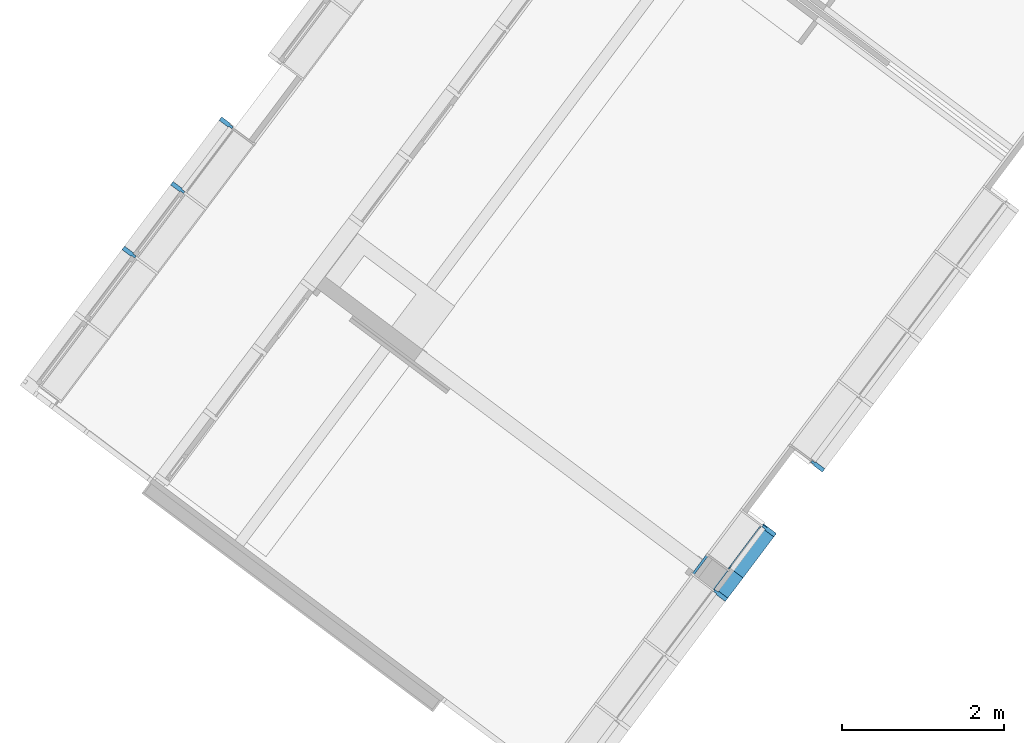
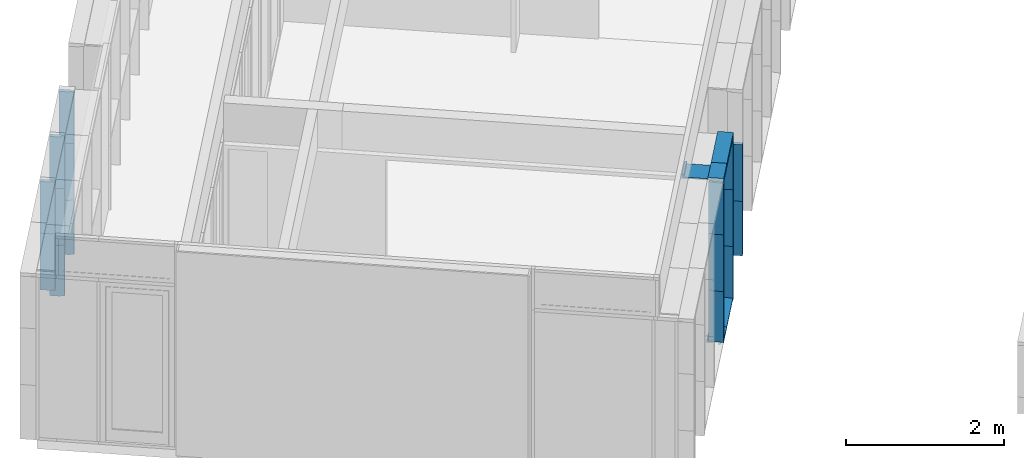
# One storey, part 93 of 243: 21 members, 3 elements without a shape of their own.
"""IFC2X3 building model written with IfcOpenShell, lengths in metres."""

from ifc_helpers import new_model, entity, si_unit, converted_unit, derived_unit, direction, frame, frame_2d, origin, place, context, subcontext, project, spatial, polyline, circle_curve, parameter, trimmed, segment, composite_curve, outline, extrude, source, transform, mapped, material, type_object, type_shapes, element, aggregate, save


model = new_model("IFC2X3")

# Units and contexts
model_context = context("Model", 3, precision=1e-05, world=origin(), true_north=direction((6.123031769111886e-17, 1.0)))
body_context = subcontext(model_context, "Body", "Model", "MODEL_VIEW")
ifc_project = project(units=[si_unit("LENGTHUNIT", "METRE"), si_unit("AREAUNIT", "SQUARE_METRE"), si_unit("VOLUMEUNIT", "CUBIC_METRE"), converted_unit("PLANEANGLEUNIT", "DEGREE", entity("IfcRatioMeasure", 0.017453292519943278), si_unit("PLANEANGLEUNIT", "RADIAN"), dimensions=[0, 0, 0, 0, 0, 0, 0]), si_unit("MASSUNIT", "GRAM", prefix="KILO"), derived_unit("MASSDENSITYUNIT", [(si_unit("MASSUNIT", "GRAM", prefix="KILO"), 1), (si_unit("LENGTHUNIT", "METRE"), -3)]), derived_unit("IONCONCENTRATIONUNIT", [(si_unit("MASSUNIT", "GRAM", prefix="KILO"), 1), (si_unit("LENGTHUNIT", "METRE"), -3)]), derived_unit("MOMENTOFINERTIAUNIT", [(si_unit("LENGTHUNIT", "METRE"), 4)]), si_unit("TIMEUNIT", "SECOND"), si_unit("FREQUENCYUNIT", "HERTZ"), si_unit("THERMODYNAMICTEMPERATUREUNIT", "DEGREE_CELSIUS"), derived_unit("THERMALTRANSMITTANCEUNIT", [(si_unit("MASSUNIT", "GRAM", prefix="KILO"), 1), (si_unit("THERMODYNAMICTEMPERATUREUNIT", "KELVIN"), -1), (si_unit("TIMEUNIT", "SECOND"), -3)]), derived_unit("THERMALCONDUCTANCEUNIT", [(si_unit("MASSUNIT", "GRAM", prefix="KILO"), 1), (si_unit("THERMODYNAMICTEMPERATUREUNIT", "KELVIN"), -1), (si_unit("TIMEUNIT", "SECOND"), -3), (si_unit("LENGTHUNIT", "METRE"), 1)]), derived_unit("VOLUMETRICFLOWRATEUNIT", [(si_unit("LENGTHUNIT", "METRE"), 3), (si_unit("TIMEUNIT", "SECOND"), -1)]), derived_unit("MASSFLOWRATEUNIT", [(si_unit("MASSUNIT", "GRAM", prefix="KILO"), 1), (si_unit("TIMEUNIT", "SECOND"), -1)]), derived_unit("ROTATIONALFREQUENCYUNIT", [(si_unit("TIMEUNIT", "SECOND"), -1)]), si_unit("ELECTRICCURRENTUNIT", "AMPERE"), si_unit("ELECTRICVOLTAGEUNIT", "VOLT"), si_unit("POWERUNIT", "WATT"), si_unit("FORCEUNIT", "NEWTON", prefix="KILO"), si_unit("ILLUMINANCEUNIT", "LUX"), si_unit("LUMINOUSFLUXUNIT", "LUMEN"), si_unit("LUMINOUSINTENSITYUNIT", "CANDELA"), derived_unit("USERDEFINED", [(si_unit("MASSUNIT", "GRAM", prefix="KILO"), -1), (si_unit("LENGTHUNIT", "METRE"), -2), (si_unit("TIMEUNIT", "SECOND"), 3), (si_unit("LUMINOUSFLUXUNIT", "LUMEN"), 1)]), derived_unit("USERDEFINED", [(si_unit("MASSUNIT", "GRAM", prefix="KILO"), 1), (si_unit("TIMEUNIT", "SECOND"), -3), (si_unit("LENGTHUNIT", "METRE"), 3), (si_unit("ELECTRICCURRENTUNIT", "AMPERE"), -2)]), derived_unit("SOUNDPOWERUNIT", [(si_unit("MASSUNIT", "GRAM", prefix="KILO"), 1), (si_unit("TIMEUNIT", "SECOND"), -3), (si_unit("LENGTHUNIT", "METRE"), 2)]), derived_unit("SOUNDPRESSUREUNIT", [(si_unit("MASSUNIT", "GRAM", prefix="KILO"), 1), (si_unit("LENGTHUNIT", "METRE"), -1), (si_unit("TIMEUNIT", "SECOND"), -2)]), derived_unit("LINEARVELOCITYUNIT", [(si_unit("LENGTHUNIT", "METRE"), 1), (si_unit("TIMEUNIT", "SECOND"), -1)]), si_unit("PRESSUREUNIT", "PASCAL"), derived_unit("USERDEFINED", [(si_unit("MASSUNIT", "GRAM", prefix="KILO"), 1), (si_unit("LENGTHUNIT", "METRE"), -2), (si_unit("TIMEUNIT", "SECOND"), -2)]), derived_unit("LINEARFORCEUNIT", [(si_unit("MASSUNIT", "GRAM", prefix="KILO"), 1), (si_unit("TIMEUNIT", "SECOND"), -2)]), derived_unit("PLANARFORCEUNIT", [(si_unit("MASSUNIT", "GRAM", prefix="KILO"), 1), (si_unit("LENGTHUNIT", "METRE"), -1), (si_unit("TIMEUNIT", "SECOND"), -2)]), derived_unit("SPECIFICHEATCAPACITYUNIT", [(si_unit("THERMODYNAMICTEMPERATUREUNIT", "KELVIN"), -1), (si_unit("LENGTHUNIT", "METRE"), 2), (si_unit("TIMEUNIT", "SECOND"), -2)]), derived_unit("HEATINGVALUEUNIT", [(si_unit("LENGTHUNIT", "METRE"), 2), (si_unit("TIMEUNIT", "SECOND"), -2)]), derived_unit("VAPORPERMEABILITYUNIT", [(si_unit("LENGTHUNIT", "METRE"), -1), (si_unit("TIMEUNIT", "SECOND"), 1)]), derived_unit("DYNAMICVISCOSITYUNIT", [(si_unit("MASSUNIT", "GRAM", prefix="KILO"), 1), (si_unit("TIMEUNIT", "SECOND"), -1), (si_unit("LENGTHUNIT", "METRE"), -1)]), derived_unit("THERMALEXPANSIONCOEFFICIENTUNIT", [(si_unit("THERMODYNAMICTEMPERATUREUNIT", "KELVIN"), -1)]), derived_unit("MODULUSOFELASTICITYUNIT", [(si_unit("MASSUNIT", "GRAM", prefix="KILO"), 1), (si_unit("LENGTHUNIT", "METRE"), -1), (si_unit("TIMEUNIT", "SECOND"), -2)]), derived_unit("ISOTHERMALMOISTURECAPACITYUNIT", [(si_unit("LENGTHUNIT", "METRE"), 3), (si_unit("MASSUNIT", "GRAM", prefix="KILO"), -1)]), derived_unit("MOISTUREDIFFUSIVITYUNIT", [(si_unit("TIMEUNIT", "SECOND"), -1), (si_unit("LENGTHUNIT", "METRE"), 2)])], contexts=[model_context])

# Site, building, storey
site_placement = place(None, frame((0.0, 0.0, 235.0), z_axis=(0.0, 0.0, 1.0), x_axis=(-0.7996477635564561, 0.6004693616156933, 0.0)))
site = spatial("IfcSite", under=ifc_project, at=site_placement, Name="Default", CompositionType="ELEMENT")
building_placement = place(site_placement, origin())
building = spatial("IfcBuilding", under=site, at=building_placement, CompositionType="ELEMENT")
storey_placement = place(building_placement, origin())
storey = spatial("IfcBuildingStorey", under=building, at=storey_placement, Name="P0- Escola", CompositionType="ELEMENT", Elevation=0.0)

# Curtain wall, members
curtain_wall_type_1 = type_object("IfcCurtainWallType", Name="Muro cortina:MC- EXT- MC2", PredefinedType="NOTDEFINED")
curtain_wall_1_placement = place(storey_placement, origin())
curtain_wall_1 = element("IfcCurtainWall", 1, at=curtain_wall_1_placement, inside=storey, type_object=curtain_wall_type_1, Name="Muro cortina:MC- EXT- MC2", ObjectType="Muro cortina:MC- EXT- MC2")
ifc_material_1 = material(Name="_Alumini- T1- Perfil")
member_type_1 = type_object("IfcMemberType", Name="Montante rectangular:MC- Alu- 140x52,5 cm- Fa patis- Centre", PredefinedType="MULLION", material=ifc_material_1)
shared_shape_1 = source(origin(), body_context, "Body", "SweptSolid", [
    extrude(outline(polyline([(-0.11699999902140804, -0.026250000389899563), (0.021999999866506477, -0.026250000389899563), (0.021999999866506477, -0.01500000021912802), (0.07299999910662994, -0.01500000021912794), (0.07299999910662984, 0.015000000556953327), (0.02200000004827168, 0.015000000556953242), (0.02200000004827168, 0.026250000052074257), (-0.11699999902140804, 0.026250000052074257), (-0.11699999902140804, -0.026250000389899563)])), frame((0.0, 0.022999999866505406, -0.8400000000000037), z_axis=(0.0, 0.0, 1.0), x_axis=(0.0, -1.0, 0.0)), (0.0, 0.0, 1.0), 0.8400000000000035),
])
type_shapes(member_type_1, [shared_shape_1])
member_1_placement = place(curtain_wall_1_placement, frame((66.44514768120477, -24.415191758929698, -0.02), z_axis=(0.0, 0.0, -1.0), x_axis=(0.0, -1.0, 0.0)))
member_1 = element("IfcMember", 2, at=member_1_placement, type_object=member_type_1, material=ifc_material_1, Name="Montante rectangular:MC- Alu- 140x52,5 cm- Fa patis- Centre", ObjectType="Montante rectangular:MC- Alu- 140x52,5 cm- Fa patis- Centre", context=body_context, shape_type="MappedRepresentation", body=[
    mapped(shared_shape_1, transform((0.0, 0.0, 0.0), scale=1.0)),
])
member_2_placement = place(curtain_wall_1_placement, frame((66.44514768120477, -25.41519175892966, -0.02), z_axis=(0.0, 0.0, -1.0), x_axis=(0.0, -1.0, 0.0)))
member_2 = element("IfcMember", 3, at=member_2_placement, type_object=member_type_1, material=ifc_material_1, Name="Montante rectangular:MC- Alu- 140x52,5 cm- Fa patis- Centre", ObjectType="Montante rectangular:MC- Alu- 140x52,5 cm- Fa patis- Centre", context=body_context, shape_type="MappedRepresentation", body=[
    mapped(shared_shape_1, transform((0.0, 0.0, 0.0), scale=1.0)),
])
member_type_2 = type_object("IfcMemberType", Name="Montante rectangular:MC- Alu- 140x52,5 cm- Fa patis- Centre", PredefinedType="MULLION", material=ifc_material_1)
shared_shape_2 = source(origin(), body_context, "Body", "SweptSolid", [
    extrude(outline(polyline([(-0.11699999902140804, -0.026250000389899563), (0.021999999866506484, -0.026250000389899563), (0.021999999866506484, -0.01500000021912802), (0.07299999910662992, -0.01500000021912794), (0.07299999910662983, 0.015000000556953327), (0.022000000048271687, 0.015000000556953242), (0.022000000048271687, 0.026250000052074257), (-0.11699999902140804, 0.026250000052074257), (-0.11699999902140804, -0.026250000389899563)])), frame((0.0, 0.022999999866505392, -0.7850000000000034), z_axis=(0.0, 0.0, 1.0), x_axis=(0.0, -1.0, 0.0)), (0.0, 0.0, 1.0), 0.7850000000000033),
])
type_shapes(member_type_2, [shared_shape_2])
member_3_placement = place(curtain_wall_1_placement, frame((66.44514768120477, -23.415191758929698, 0.035000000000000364), z_axis=(0.0, 0.0, -1.0), x_axis=(0.0, -1.0, 0.0)))
member_3 = element("IfcMember", 4, at=member_3_placement, type_object=member_type_2, material=ifc_material_1, Name="Montante rectangular:MC- Alu- 140x52,5 cm- Fa patis- Centre", ObjectType="Montante rectangular:MC- Alu- 140x52,5 cm- Fa patis- Centre", context=body_context, shape_type="MappedRepresentation", body=[
    mapped(shared_shape_2, transform((0.0, 0.0, 0.0), scale=1.0)),
])
member_type_3 = type_object("IfcMemberType", Name="Montante rectangular:MC- Alu- 140x52,5 cm- Fa patis- Centre", PredefinedType="MULLION", material=ifc_material_1)
shared_shape_3 = source(origin(), body_context, "Body", "SweptSolid", [
    extrude(outline(polyline([(-0.11699999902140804, -0.026250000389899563), (0.021999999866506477, -0.026250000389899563), (0.021999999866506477, -0.01500000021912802), (0.07299999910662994, -0.01500000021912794), (0.07299999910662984, 0.015000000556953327), (0.02200000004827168, 0.015000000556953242), (0.02200000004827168, 0.026250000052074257), (-0.11699999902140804, 0.026250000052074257), (-0.11699999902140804, -0.026250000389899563)])), frame((0.0, 0.022999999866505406, -0.8750000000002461), z_axis=(0.0, 0.0, 1.0), x_axis=(0.0, -1.0, 0.0)), (0.0, 0.0, 1.0), 0.8750000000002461),
])
type_shapes(member_type_3, [shared_shape_3])
member_4_placement = place(curtain_wall_1_placement, frame((66.44514768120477, -23.415191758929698, 0.8200000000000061), z_axis=(0.0, 0.0, -1.0), x_axis=(0.0, -1.0, 0.0)))
member_4 = element("IfcMember", 5, at=member_4_placement, type_object=member_type_3, material=ifc_material_1, Name="Montante rectangular:MC- Alu- 140x52,5 cm- Fa patis- Centre", ObjectType="Montante rectangular:MC- Alu- 140x52,5 cm- Fa patis- Centre", context=body_context, shape_type="MappedRepresentation", body=[
    mapped(shared_shape_3, transform((0.0, 0.0, 0.0), scale=1.0)),
])
member_5_placement = place(curtain_wall_1_placement, frame((66.44514768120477, -24.415191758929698, 0.8200000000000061), z_axis=(0.0, 0.0, -1.0), x_axis=(0.0, -1.0, 0.0)))
member_5 = element("IfcMember", 6, at=member_5_placement, type_object=member_type_3, material=ifc_material_1, Name="Montante rectangular:MC- Alu- 140x52,5 cm- Fa patis- Centre", ObjectType="Montante rectangular:MC- Alu- 140x52,5 cm- Fa patis- Centre", context=body_context, shape_type="MappedRepresentation", body=[
    mapped(shared_shape_3, transform((0.0, 0.0, 0.0), scale=1.0)),
])
member_6_placement = place(curtain_wall_1_placement, frame((66.44514768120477, -25.41519175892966, 0.8200000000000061), z_axis=(0.0, 0.0, -1.0), x_axis=(0.0, -1.0, 0.0)))
member_6 = element("IfcMember", 7, at=member_6_placement, type_object=member_type_3, material=ifc_material_1, Name="Montante rectangular:MC- Alu- 140x52,5 cm- Fa patis- Centre", ObjectType="Montante rectangular:MC- Alu- 140x52,5 cm- Fa patis- Centre", context=body_context, shape_type="MappedRepresentation", body=[
    mapped(shared_shape_3, transform((0.0, 0.0, 0.0), scale=1.0)),
])

# Curtain wall, member
curtain_wall_type_2 = type_object("IfcCurtainWallType", Name="Muro cortina:MC- INT- k7- Aules infantil", PredefinedType="NOTDEFINED")
curtain_wall_2_placement = place(storey_placement, origin())
curtain_wall_2 = element("IfcCurtainWall", 8, at=curtain_wall_2_placement, inside=storey, type_object=curtain_wall_type_2, Name="Muro cortina:MC- INT- k7- Aules infantil", ObjectType="Muro cortina:MC- INT- k7- Aules infantil")
ifc_material_2 = material(Name="_Fusta massisa- T1")
member_type_4 = type_object("IfcMemberType", Name="Montante rectangular:MC- Fusta- 35x3 cm- Pati aules- Remat superior", PredefinedType="MULLION", material=ifc_material_2)
shared_shape_4 = source(origin(), body_context, "Body", "SweptSolid", [
    extrude(outline(polyline([(-0.21333333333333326, -0.02666666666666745), (0.1216666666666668, -0.02666666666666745), (0.12166666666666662, 0.03333333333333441), (0.09166666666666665, 0.03333333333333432), (0.09166666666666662, -0.006666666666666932), (-0.2133333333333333, -0.006666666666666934), (-0.21333333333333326, -0.02666666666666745)])), frame((-0.033333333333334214, 0.026666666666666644, -0.3000000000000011), z_axis=(0.0, 0.0, 1.0), x_axis=(0.0, -1.0, 0.0)), (0.0, 0.0, 1.0), 0.3000000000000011),
])
type_shapes(member_type_4, [shared_shape_4])
member_7_placement = place(curtain_wall_2_placement, frame((66.74514768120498, -23.715191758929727, 2.565), z_axis=(0.0, -1.0, 0.0), x_axis=(0.0, 0.0, 1.0)))
member_7 = element("IfcMember", 9, at=member_7_placement, type_object=member_type_4, material=ifc_material_2, Name="Montante rectangular:MC- Fusta- 35x3 cm- Pati aules- Remat superior", ObjectType="Montante rectangular:MC- Fusta- 35x3 cm- Pati aules- Remat superior", context=body_context, shape_type="MappedRepresentation", body=[
    mapped(shared_shape_4, transform((0.0, 0.0, 0.0), scale=1.0)),
])
aggregate(curtain_wall_2, [member_7])

# Member
member_type_5 = type_object("IfcMemberType", Name="Montante rectangular:MC- Alu- 140x52,5 cm- Fa patis- inferior", PredefinedType="MULLION", material=ifc_material_1)
shared_shape_5 = source(origin(), body_context, "Body", "SweptSolid", [
    extrude(outline(composite_curve([segment(polyline([(0.1278672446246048, -0.025867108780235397), (0.14416724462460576, -0.0258671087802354)]), True, "CONTINUOUS"), segment(polyline([(0.14416724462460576, -0.0258671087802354), (0.1441672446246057, 0.009132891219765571)]), True, "CONTINUOUS"), segment(polyline([(0.1441672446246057, 0.009132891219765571), (0.06786724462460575, 0.009132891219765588)]), True, "CONTINUOUS"), segment(polyline([(0.06786724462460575, 0.009132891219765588), (0.06786724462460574, -0.021159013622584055)]), True, "CONTINUOUS"), segment(polyline([(0.06786724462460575, -0.021159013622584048), (-0.030132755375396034, -0.012332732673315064)]), True, "CONTINUOUS"), segment(polyline([(-0.03013275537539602, -0.012332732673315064), (-0.030132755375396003, 0.027132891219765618)]), True, "CONTINUOUS"), segment(polyline([(-0.030132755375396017, 0.027132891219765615), (-0.0021327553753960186, 0.027132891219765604)]), True, "CONTINUOUS"), segment(polyline([(-0.0021327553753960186, 0.027132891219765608), (-0.0021327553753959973, 0.0291328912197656)]), True, "CONTINUOUS"), segment(polyline([(-0.0021327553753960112, 0.0291328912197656), (-0.032132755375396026, 0.02913289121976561)]), True, "CONTINUOUS"), segment(polyline([(-0.032132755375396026, 0.02913289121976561), (-0.03213275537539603, -0.012152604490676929)]), True, "CONTINUOUS"), segment(polyline([(-0.03213275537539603, -0.012152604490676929), (-0.0701327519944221, -0.008730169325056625)]), True, "CONTINUOUS"), segment(polyline([(-0.0701327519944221, -0.008730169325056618), (-0.0701327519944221, 0.0057663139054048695)]), True, "CONTINUOUS"), segment(trimmed(circle_curve(frame_2d((-0.0696327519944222, 0.005766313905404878), x_axis=(-1.0, 0.0)), 0.0004999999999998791), [parameter(269.999999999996)], [parameter(0.0)], True, "PARAMETER"), False, "CONTINUOUS"), segment(polyline([(-0.0696327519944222, 0.006266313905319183), (-0.06213275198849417, 0.00626631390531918)]), True, "CONTINUOUS"), segment(polyline([(-0.06213275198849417, 0.00626631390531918), (-0.06213275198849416, 0.008266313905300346)]), True, "CONTINUOUS"), segment(polyline([(-0.06213275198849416, 0.008266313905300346), (-0.07013275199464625, 0.008266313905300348)]), True, "CONTINUOUS"), segment(trimmed(circle_curve(frame_2d((-0.07013275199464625, 0.0062663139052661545), x_axis=(0.0, 1.0)), 0.0020000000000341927), [parameter(0.0)], [parameter(90.00000002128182)], True, "PARAMETER"), True, "CONTINUOUS"), segment(polyline([(-0.07213275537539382, 0.006266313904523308), (-0.07213275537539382, -0.008730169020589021)]), True, "CONTINUOUS"), segment(trimmed(circle_curve(frame_2d((-0.07013275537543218, -0.008730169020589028), x_axis=(-1.0, 0.0)), 0.001999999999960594), [parameter(0.0)], [parameter(84.85359280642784)], True, "PARAMETER"), True, "CONTINUOUS"), segment(polyline([(-0.07031215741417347, -0.010722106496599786), (0.06786724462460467, -0.02316710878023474)]), True, "CONTINUOUS"), segment(polyline([(0.06786724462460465, -0.023167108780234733), (0.12786724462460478, -0.02316710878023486)]), True, "CONTINUOUS"), segment(polyline([(0.12786724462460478, -0.02316710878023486), (0.1278672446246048, -0.025867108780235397)]), True, "CONTINUOUS")], self_intersect=False)), frame((-0.02913289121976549, 0.06786724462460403, -0.3391263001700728), z_axis=(0.0, 0.0, 1.0), x_axis=(0.0, -1.0, 0.0)), (0.0, 0.0, 1.0), 0.3391263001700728),
])
type_shapes(member_type_5, [shared_shape_5])
member_8_placement = place(curtain_wall_1_placement, frame((66.44514768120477, -23.415191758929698, -0.02), z_axis=(0.0, 1.0, 0.0), x_axis=(0.0, 0.0, -1.0)))
member_8 = element("IfcMember", 10, at=member_8_placement, type_object=member_type_5, material=ifc_material_1, Name="Montante rectangular:MC- Alu- 140x52,5 cm- Fa patis- inferior", ObjectType="Montante rectangular:MC- Alu- 140x52,5 cm- Fa patis- inferior", context=body_context, shape_type="MappedRepresentation", body=[
    mapped(shared_shape_5, transform((0.0, 0.0, 0.0), scale=1.0)),
])

member_type_6 = type_object("IfcMemberType", Name="Montante rectangular:MC- Alu- 140x52,5 cm- Fa patis- Superior", PredefinedType="MULLION", material=ifc_material_1)
shared_shape_6 = source(origin(), body_context, "Body", "SweptSolid", [
    extrude(outline(polyline([(-0.11366666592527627, -0.021249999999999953), (0.02633333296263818, -0.021249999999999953), (0.02633333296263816, -0.010000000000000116), (0.08733333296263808, -0.010000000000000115), (0.08733333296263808, 0.03125000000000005), (-0.11366666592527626, 0.031250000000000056), (-0.11366666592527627, -0.021249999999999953)])), frame((-0.031250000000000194, 0.027333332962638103, -0.6871237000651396), z_axis=(0.0, 0.0, 1.0), x_axis=(0.0, -1.0, 0.0)), (0.0, 0.0, 1.0), 0.6871237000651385),
])
type_shapes(member_type_6, [shared_shape_6])
member_9_placement = place(curtain_wall_1_placement, frame((66.44514768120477, -24.441441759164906, 2.545), z_axis=(0.0, -1.0, 0.0), x_axis=(0.0, 0.0, 1.0)))
member_9 = element("IfcMember", 11, at=member_9_placement, type_object=member_type_6, material=ifc_material_1, Name="Montante rectangular:MC- Alu- 140x52,5 cm- Fa patis- Superior", ObjectType="Montante rectangular:MC- Alu- 140x52,5 cm- Fa patis- Superior", context=body_context, shape_type="MappedRepresentation", body=[
    mapped(shared_shape_6, transform((0.0, 0.0, 0.0), scale=1.0)),
])

member_type_7 = type_object("IfcMemberType", Name="Montante rectangular:MC- Alu- 140x52,5 cm- Fa patis- Superior", PredefinedType="MULLION", material=ifc_material_1)
shared_shape_7 = source(origin(), body_context, "Body", "SweptSolid", [
    extrude(outline(polyline([(-0.11366666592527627, -0.021249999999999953), (0.02633333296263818, -0.021249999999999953), (0.02633333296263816, -0.010000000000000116), (0.08733333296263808, -0.010000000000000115), (0.08733333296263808, 0.03125000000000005), (-0.11366666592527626, 0.031250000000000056), (-0.11366666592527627, -0.021249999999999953)])), frame((-0.031250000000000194, 0.027333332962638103, -0.3391263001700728), z_axis=(0.0, 0.0, 1.0), x_axis=(0.0, -1.0, 0.0)), (0.0, 0.0, 1.0), 0.3391263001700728),
])
type_shapes(member_type_7, [shared_shape_7])
member_10_placement = place(curtain_wall_1_placement, frame((66.44514768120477, -23.754318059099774, 2.545), z_axis=(0.0, -1.0, 0.0), x_axis=(0.0, 0.0, 1.0)))
member_10 = element("IfcMember", 12, at=member_10_placement, type_object=member_type_7, material=ifc_material_1, Name="Montante rectangular:MC- Alu- 140x52,5 cm- Fa patis- Superior", ObjectType="Montante rectangular:MC- Alu- 140x52,5 cm- Fa patis- Superior", context=body_context, shape_type="MappedRepresentation", body=[
    mapped(shared_shape_7, transform((0.0, 0.0, 0.0), scale=1.0)),
])

member_type_8 = type_object("IfcMemberType", Name="Montante rectangular:MC- Alu- 140x52,5 cm- Fa patis- inferior", PredefinedType="MULLION", material=ifc_material_1)
shared_shape_8 = source(origin(), body_context, "Body", "SweptSolid", [
    extrude(outline(composite_curve([segment(polyline([(0.1278672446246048, -0.02586710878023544), (0.14416724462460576, -0.025867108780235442)]), True, "CONTINUOUS"), segment(polyline([(0.14416724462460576, -0.025867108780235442), (0.1441672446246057, 0.00913289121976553)]), True, "CONTINUOUS"), segment(polyline([(0.1441672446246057, 0.00913289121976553), (0.06786724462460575, 0.009132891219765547)]), True, "CONTINUOUS"), segment(polyline([(0.06786724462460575, 0.009132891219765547), (0.06786724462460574, -0.021159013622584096)]), True, "CONTINUOUS"), segment(polyline([(0.06786724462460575, -0.02115901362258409), (-0.030132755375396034, -0.012332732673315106)]), True, "CONTINUOUS"), segment(polyline([(-0.03013275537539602, -0.012332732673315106), (-0.030132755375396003, 0.027132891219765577)]), True, "CONTINUOUS"), segment(polyline([(-0.030132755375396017, 0.027132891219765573), (-0.0021327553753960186, 0.027132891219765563)]), True, "CONTINUOUS"), segment(polyline([(-0.0021327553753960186, 0.027132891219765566), (-0.0021327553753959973, 0.029132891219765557)]), True, "CONTINUOUS"), segment(polyline([(-0.0021327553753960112, 0.029132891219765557), (-0.032132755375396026, 0.029132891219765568)]), True, "CONTINUOUS"), segment(polyline([(-0.032132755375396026, 0.029132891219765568), (-0.03213275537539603, -0.01215260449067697)]), True, "CONTINUOUS"), segment(polyline([(-0.03213275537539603, -0.01215260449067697), (-0.0701327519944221, -0.008730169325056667)]), True, "CONTINUOUS"), segment(polyline([(-0.0701327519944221, -0.00873016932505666), (-0.0701327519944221, 0.005766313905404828)]), True, "CONTINUOUS"), segment(trimmed(circle_curve(frame_2d((-0.0696327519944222, 0.0057663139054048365), x_axis=(-1.0, 0.0)), 0.0004999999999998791), [parameter(269.999999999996)], [parameter(0.0)], True, "PARAMETER"), False, "CONTINUOUS"), segment(polyline([(-0.0696327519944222, 0.006266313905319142), (-0.06213275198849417, 0.006266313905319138)]), True, "CONTINUOUS"), segment(polyline([(-0.06213275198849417, 0.006266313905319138), (-0.06213275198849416, 0.008266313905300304)]), True, "CONTINUOUS"), segment(polyline([(-0.06213275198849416, 0.008266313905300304), (-0.07013275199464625, 0.008266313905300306)]), True, "CONTINUOUS"), segment(trimmed(circle_curve(frame_2d((-0.07013275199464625, 0.006266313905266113), x_axis=(0.0, 1.0)), 0.0020000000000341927), [parameter(0.0)], [parameter(90.00000002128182)], True, "PARAMETER"), True, "CONTINUOUS"), segment(polyline([(-0.07213275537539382, 0.006266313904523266), (-0.07213275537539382, -0.008730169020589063)]), True, "CONTINUOUS"), segment(trimmed(circle_curve(frame_2d((-0.07013275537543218, -0.008730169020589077), x_axis=(-1.0, 0.0)), 0.001999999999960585), [parameter(0.0)], [parameter(84.85359280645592)], True, "PARAMETER"), True, "CONTINUOUS"), segment(polyline([(-0.07031215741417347, -0.010722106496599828), (0.06786724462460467, -0.023167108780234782)]), True, "CONTINUOUS"), segment(polyline([(0.06786724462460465, -0.023167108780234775), (0.12786724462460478, -0.023167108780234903)]), True, "CONTINUOUS"), segment(polyline([(0.12786724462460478, -0.023167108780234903), (0.1278672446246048, -0.02586710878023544)]), True, "CONTINUOUS")], self_intersect=False)), frame((-0.02913289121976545, 0.06786724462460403, -0.6346236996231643), z_axis=(0.0, 0.0, 1.0), x_axis=(0.0, -1.0, 0.0)), (0.0, 0.0, 1.0), 0.6346236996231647),
])
type_shapes(member_type_8, [shared_shape_8])
member_11_placement = place(curtain_wall_1_placement, frame((66.44514768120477, -23.754318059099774, -0.02), z_axis=(0.0, 1.0, 0.0), x_axis=(0.0, 0.0, -1.0)))
member_11 = element("IfcMember", 13, at=member_11_placement, type_object=member_type_8, material=ifc_material_1, Name="Montante rectangular:MC- Alu- 140x52,5 cm- Fa patis- inferior", ObjectType="Montante rectangular:MC- Alu- 140x52,5 cm- Fa patis- inferior", context=body_context, shape_type="MappedRepresentation", body=[
    mapped(shared_shape_8, transform((0.0, 0.0, 0.0), scale=1.0)),
])

member_type_9 = type_object("IfcMemberType", Name="Montante rectangular:MC- Alu- 140x52,5 cm- Fa patis- Centre", PredefinedType="MULLION", material=ifc_material_1)
shared_shape_9 = source(origin(), body_context, "Body", "SweptSolid", [
    extrude(outline(polyline([(-0.11699999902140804, -0.026250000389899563), (0.021999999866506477, -0.026250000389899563), (0.021999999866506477, -0.01500000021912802), (0.07299999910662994, -0.01500000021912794), (0.07299999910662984, 0.015000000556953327), (0.02200000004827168, 0.015000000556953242), (0.02200000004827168, 0.026250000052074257), (-0.11699999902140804, 0.026250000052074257), (-0.11699999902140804, -0.026250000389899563)])), frame((0.0, 0.022999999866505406, -0.79749999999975), z_axis=(0.0, 0.0, 1.0), x_axis=(0.0, -1.0, 0.0)), (0.0, 0.0, 1.0), 0.79749999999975),
])
type_shapes(member_type_9, [shared_shape_9])
member_12_placement = place(curtain_wall_1_placement, frame((66.44514768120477, -23.415191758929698, 1.6950000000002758), z_axis=(0.0, 0.0, -1.0), x_axis=(0.0, -1.0, 0.0)))
member_12 = element("IfcMember", 14, at=member_12_placement, type_object=member_type_9, material=ifc_material_1, Name="Montante rectangular:MC- Alu- 140x52,5 cm- Fa patis- Centre", ObjectType="Montante rectangular:MC- Alu- 140x52,5 cm- Fa patis- Centre", context=body_context, shape_type="MappedRepresentation", body=[
    mapped(shared_shape_9, transform((0.0, 0.0, 0.0), scale=1.0)),
])

member_13_placement = place(curtain_wall_1_placement, frame((66.44514768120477, -24.415191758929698, 1.6950000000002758), z_axis=(0.0, 0.0, -1.0), x_axis=(0.0, -1.0, 0.0)))
member_13 = element("IfcMember", 15, at=member_13_placement, type_object=member_type_9, material=ifc_material_1, Name="Montante rectangular:MC- Alu- 140x52,5 cm- Fa patis- Centre", ObjectType="Montante rectangular:MC- Alu- 140x52,5 cm- Fa patis- Centre", context=body_context, shape_type="MappedRepresentation", body=[
    mapped(shared_shape_9, transform((0.0, 0.0, 0.0), scale=1.0)),
])

aggregate(curtain_wall_1, [member_8, member_3, member_9, member_1, member_2, member_10, member_11, member_4, member_5, member_6, member_12, member_13])

# Curtain wall, members
curtain_wall_type_3 = type_object("IfcCurtainWallType", Name="Muro cortina:MC- EXT- MC5", PredefinedType="NOTDEFINED")
curtain_wall_3_placement = place(storey_placement, origin())
curtain_wall_3 = element("IfcCurtainWall", 16, at=curtain_wall_3_placement, inside=storey, type_object=curtain_wall_type_3, Name="Muro cortina:MC- EXT- MC5", ObjectType="Muro cortina:MC- EXT- MC5")
member_type_10 = type_object("IfcMemberType", Name="Montante rectangular:MC- Alu- 140x52,5 cm- Fa patis- Centre", PredefinedType="MULLION", material=ifc_material_1)
shared_shape_10 = source(origin(), body_context, "Body", "SweptSolid", [
    extrude(outline(polyline([(-0.021999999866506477, -0.026250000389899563), (0.11699999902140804, -0.026250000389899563), (0.11699999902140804, 0.026250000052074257), (-0.02200000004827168, 0.026250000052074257), (-0.02200000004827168, 0.015000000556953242), (-0.07299999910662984, 0.015000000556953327), (-0.07299999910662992, -0.01500000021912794), (-0.021999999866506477, -0.01500000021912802), (-0.021999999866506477, -0.026250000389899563)])), frame((0.0, -0.022999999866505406, -0.8400000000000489), z_axis=(0.0, 0.0, 1.0), x_axis=(0.0, -1.0, 0.0)), (0.0, 0.0, 1.0), 0.8400000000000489),
])
type_shapes(member_type_10, [shared_shape_10])
member_14_placement = place(curtain_wall_3_placement, frame((74.7451476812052, -24.4151917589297, -0.02), z_axis=(0.0, 0.0, -1.0), x_axis=(0.0, -1.0, 0.0)))
member_14 = element("IfcMember", 17, at=member_14_placement, type_object=member_type_10, material=ifc_material_1, Name="Montante rectangular:MC- Alu- 140x52,5 cm- Fa patis- Centre", ObjectType="Montante rectangular:MC- Alu- 140x52,5 cm- Fa patis- Centre", context=body_context, shape_type="MappedRepresentation", body=[
    mapped(shared_shape_10, transform((0.0, 0.0, 0.0), scale=1.0)),
])
member_type_11 = type_object("IfcMemberType", Name="Montante rectangular:MC- Alu- 140x52,5 cm- Fa patis- Centre", PredefinedType="MULLION", material=ifc_material_1)
shared_shape_11 = source(origin(), body_context, "Body", "SweptSolid", [
    extrude(outline(polyline([(-0.021999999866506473, -0.026250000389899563), (0.11699999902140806, -0.026250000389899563), (0.11699999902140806, 0.026250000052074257), (-0.022000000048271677, 0.026250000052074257), (-0.022000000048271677, 0.015000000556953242), (-0.07299999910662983, 0.015000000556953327), (-0.07299999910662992, -0.01500000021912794), (-0.021999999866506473, -0.01500000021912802), (-0.021999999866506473, -0.026250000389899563)])), frame((0.0, -0.022999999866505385, -0.7850000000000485), z_axis=(0.0, 0.0, 1.0), x_axis=(0.0, -1.0, 0.0)), (0.0, 0.0, 1.0), 0.7850000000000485),
])
type_shapes(member_type_11, [shared_shape_11])
member_15_placement = place(curtain_wall_3_placement, frame((74.7451476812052, -23.415191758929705, 0.035000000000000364), z_axis=(0.0, 0.0, -1.0), x_axis=(0.0, -1.0, 0.0)))
member_15 = element("IfcMember", 18, at=member_15_placement, type_object=member_type_11, material=ifc_material_1, Name="Montante rectangular:MC- Alu- 140x52,5 cm- Fa patis- Centre", ObjectType="Montante rectangular:MC- Alu- 140x52,5 cm- Fa patis- Centre", context=body_context, shape_type="MappedRepresentation", body=[
    mapped(shared_shape_11, transform((0.0, 0.0, 0.0), scale=1.0)),
])
member_type_12 = type_object("IfcMemberType", Name="Montante rectangular:MC- Alu- 140x52,5 cm- Fa patis- Centre", PredefinedType="MULLION", material=ifc_material_1)
shared_shape_12 = source(origin(), body_context, "Body", "SweptSolid", [
    extrude(outline(polyline([(-0.021999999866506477, -0.026250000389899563), (0.11699999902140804, -0.026250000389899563), (0.11699999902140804, 0.026250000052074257), (-0.02200000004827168, 0.026250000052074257), (-0.02200000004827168, 0.015000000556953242), (-0.07299999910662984, 0.015000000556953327), (-0.07299999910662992, -0.01500000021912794), (-0.021999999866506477, -0.01500000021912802), (-0.021999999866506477, -0.026250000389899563)])), frame((0.0, -0.022999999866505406, -0.8750000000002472), z_axis=(0.0, 0.0, 1.0), x_axis=(0.0, -1.0, 0.0)), (0.0, 0.0, 1.0), 0.8750000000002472),
])
type_shapes(member_type_12, [shared_shape_12])
member_16_placement = place(curtain_wall_3_placement, frame((74.7451476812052, -22.415191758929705, 0.8200000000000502), z_axis=(0.0, 0.0, -1.0), x_axis=(0.0, -1.0, 0.0)))
member_16 = element("IfcMember", 19, at=member_16_placement, type_object=member_type_12, material=ifc_material_1, Name="Montante rectangular:MC- Alu- 140x52,5 cm- Fa patis- Centre", ObjectType="Montante rectangular:MC- Alu- 140x52,5 cm- Fa patis- Centre", context=body_context, shape_type="MappedRepresentation", body=[
    mapped(shared_shape_12, transform((0.0, 0.0, 0.0), scale=1.0)),
])
member_17_placement = place(curtain_wall_3_placement, frame((74.7451476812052, -23.415191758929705, 0.8200000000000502), z_axis=(0.0, 0.0, -1.0), x_axis=(0.0, -1.0, 0.0)))
member_17 = element("IfcMember", 20, at=member_17_placement, type_object=member_type_12, material=ifc_material_1, Name="Montante rectangular:MC- Alu- 140x52,5 cm- Fa patis- Centre", ObjectType="Montante rectangular:MC- Alu- 140x52,5 cm- Fa patis- Centre", context=body_context, shape_type="MappedRepresentation", body=[
    mapped(shared_shape_12, transform((0.0, 0.0, 0.0), scale=1.0)),
])
member_18_placement = place(curtain_wall_3_placement, frame((74.7451476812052, -24.4151917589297, 0.8200000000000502), z_axis=(0.0, 0.0, -1.0), x_axis=(0.0, -1.0, 0.0)))
member_18 = element("IfcMember", 21, at=member_18_placement, type_object=member_type_12, material=ifc_material_1, Name="Montante rectangular:MC- Alu- 140x52,5 cm- Fa patis- Centre", ObjectType="Montante rectangular:MC- Alu- 140x52,5 cm- Fa patis- Centre", context=body_context, shape_type="MappedRepresentation", body=[
    mapped(shared_shape_12, transform((0.0, 0.0, 0.0), scale=1.0)),
])
member_type_13 = type_object("IfcMemberType", Name="Montante rectangular:MC- Alu- 140x52,5 cm- Fa patis- Centre", PredefinedType="MULLION", material=ifc_material_1)
shared_shape_13 = source(origin(), body_context, "Body", "SweptSolid", [
    extrude(outline(polyline([(-0.021999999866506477, -0.026250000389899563), (0.11699999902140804, -0.026250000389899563), (0.11699999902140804, 0.026250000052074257), (-0.02200000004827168, 0.026250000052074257), (-0.02200000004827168, 0.015000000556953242), (-0.07299999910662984, 0.015000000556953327), (-0.07299999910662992, -0.01500000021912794), (-0.021999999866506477, -0.01500000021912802), (-0.021999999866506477, -0.026250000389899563)])), frame((0.0, -0.022999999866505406, -0.7974999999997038), z_axis=(0.0, 0.0, 1.0), x_axis=(0.0, -1.0, 0.0)), (0.0, 0.0, 1.0), 0.7974999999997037),
])
type_shapes(member_type_13, [shared_shape_13])
member_19_placement = place(curtain_wall_3_placement, frame((74.7451476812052, -22.415191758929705, 1.6950000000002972), z_axis=(0.0, 0.0, -1.0), x_axis=(0.0, -1.0, 0.0)))
member_19 = element("IfcMember", 22, at=member_19_placement, type_object=member_type_13, material=ifc_material_1, Name="Montante rectangular:MC- Alu- 140x52,5 cm- Fa patis- Centre", ObjectType="Montante rectangular:MC- Alu- 140x52,5 cm- Fa patis- Centre", context=body_context, shape_type="MappedRepresentation", body=[
    mapped(shared_shape_13, transform((0.0, 0.0, 0.0), scale=1.0)),
])
member_20_placement = place(curtain_wall_3_placement, frame((74.7451476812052, -23.415191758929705, 1.6950000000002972), z_axis=(0.0, 0.0, -1.0), x_axis=(0.0, -1.0, 0.0)))
member_20 = element("IfcMember", 23, at=member_20_placement, type_object=member_type_13, material=ifc_material_1, Name="Montante rectangular:MC- Alu- 140x52,5 cm- Fa patis- Centre", ObjectType="Montante rectangular:MC- Alu- 140x52,5 cm- Fa patis- Centre", context=body_context, shape_type="MappedRepresentation", body=[
    mapped(shared_shape_13, transform((0.0, 0.0, 0.0), scale=1.0)),
])
member_21_placement = place(curtain_wall_3_placement, frame((74.7451476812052, -24.4151917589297, 1.6950000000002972), z_axis=(0.0, 0.0, -1.0), x_axis=(0.0, -1.0, 0.0)))
member_21 = element("IfcMember", 24, at=member_21_placement, type_object=member_type_13, material=ifc_material_1, Name="Montante rectangular:MC- Alu- 140x52,5 cm- Fa patis- Centre", ObjectType="Montante rectangular:MC- Alu- 140x52,5 cm- Fa patis- Centre", context=body_context, shape_type="MappedRepresentation", body=[
    mapped(shared_shape_13, transform((0.0, 0.0, 0.0), scale=1.0)),
])
aggregate(curtain_wall_3, [member_15, member_14, member_16, member_17, member_18, member_19, member_20, member_21])

save(model, "model.ifc")
